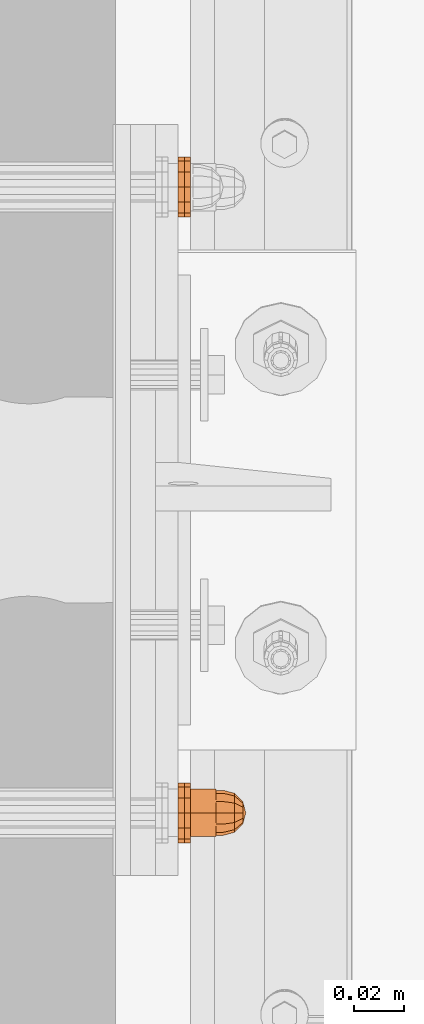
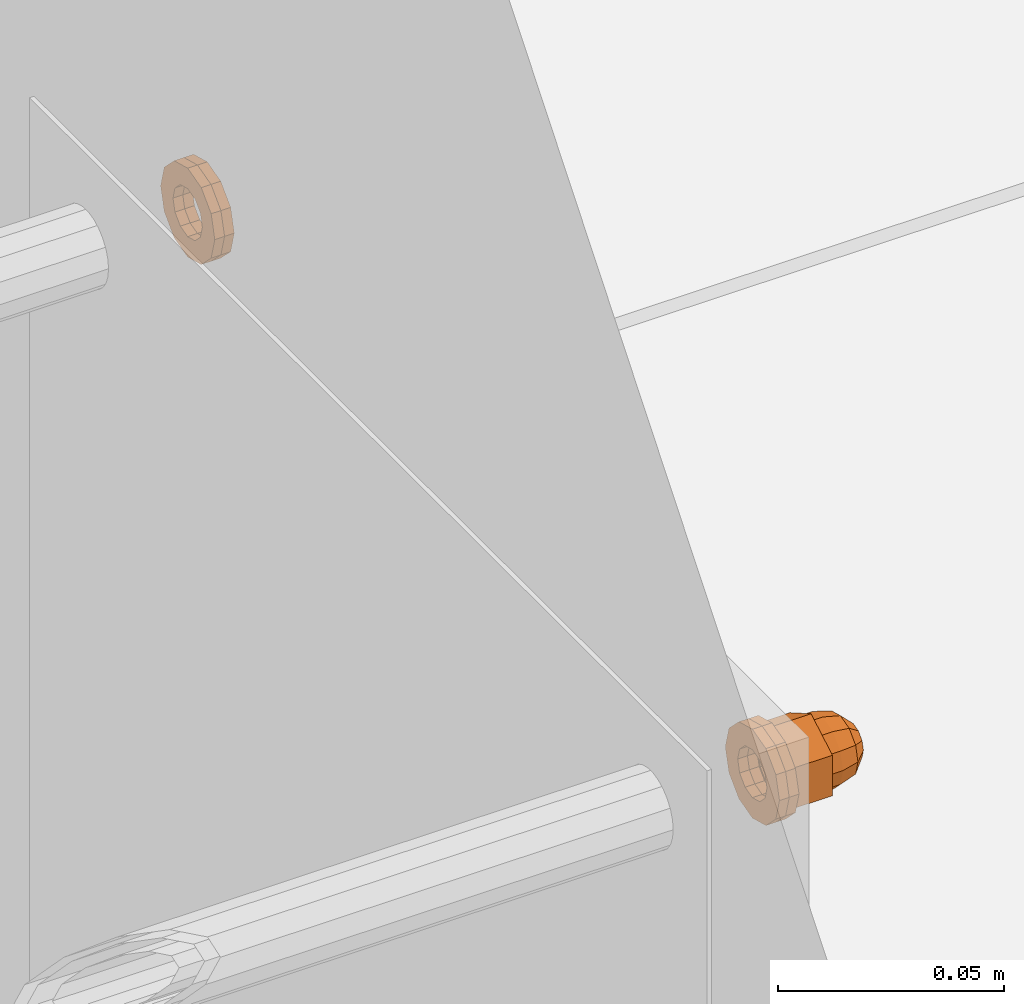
# One storey, part 114 of 162: 5 proxies.
"""IFC2X3 building model written with IfcOpenShell, lengths in millimetres."""

from ifc_helpers import new_model, entity, si_unit, converted_unit, origin_with_axes, place, context, project, spatial, faceted_brep, material, element, save


model = new_model("IFC2X3")

# Units and contexts
model_context = context("Model", 3, precision=1e-09, world=origin_with_axes())
ifc_project = project(units=[si_unit("LENGTHUNIT", "METRE", prefix="MILLI"), si_unit("AREAUNIT", "SQUARE_METRE"), si_unit("VOLUMEUNIT", "CUBIC_METRE"), converted_unit("PLANEANGLEUNIT", "DEGREE", entity("IfcPlaneAngleMeasure", 0.01745329), si_unit("PLANEANGLEUNIT", "RADIAN"), dimensions=[0, 0, 0, 0, 0, 0, 0])], contexts=[model_context])

# Site, building, storey
site_placement = place(None, origin_with_axes())
site = spatial("IfcSite", under=ifc_project, at=site_placement, Name="Hermannstra?e 1a, 60318 Frankfurt", CompositionType="ELEMENT")
building_placement = place(site_placement, origin_with_axes())
building = spatial("IfcBuilding", under=site, at=building_placement, Name="Struktur 1", CompositionType="ELEMENT")
storey_placement = place(building_placement, origin_with_axes())
storey = spatial("IfcBuildingStorey", under=building, at=storey_placement, Name="Default Storey", CompositionType="ELEMENT", Elevation=0.0)

# Proxies
ifc_material_1 = material(Name="A4")
proxy_1_placement = place(None, origin_with_axes())
element("IfcBuildingElementProxy", 1, at=proxy_1_placement, inside=storey, material=ifc_material_1, ObjectType="-", context=model_context, shape_type="Brep", body=[
    faceted_brep([(2553.308657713, 1920.216361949, 7899.0), (2550.808657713, 1920.216361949, 7899.0), (2550.808657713, 1924.608666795, 7894.607695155), (2553.308657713, 1924.608666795, 7894.607695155), (2553.308657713, 1930.608666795, 7893.0), (2553.308657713, 1936.608666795, 7894.607695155), (2553.308657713, 1941.00097164, 7899.0), (2553.308657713, 1942.608666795, 7905.0), (2553.308657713, 1941.00097164, 7911.0), (2553.308657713, 1936.608666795, 7915.392304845), (2553.308657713, 1930.608666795, 7917.0), (2553.308657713, 1924.608666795, 7915.392304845), (2553.308657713, 1920.216361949, 7911.0), (2553.308657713, 1918.608666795, 7905.0), (2553.308657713, 1933.858666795, 7899.370834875), (2553.308657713, 1930.608666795, 7898.5), (2553.308657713, 1927.358666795, 7899.370834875), (2553.308657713, 1924.97950167, 7901.75), (2553.308657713, 1924.108666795, 7905.0), (2553.308657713, 1924.97950167, 7908.25), (2553.308657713, 1927.358666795, 7910.629165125), (2553.308657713, 1930.608666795, 7911.5), (2553.308657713, 1933.858666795, 7910.629165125), (2553.308657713, 1936.237831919, 7908.25), (2553.308657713, 1937.108666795, 7905.0), (2553.308657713, 1936.237831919, 7901.75), (2550.808657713, 1918.608666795, 7905.0), (2550.808657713, 1920.216361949, 7911.0), (2550.808657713, 1924.608666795, 7915.392304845), (2550.808657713, 1930.608666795, 7917.0), (2550.808657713, 1936.608666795, 7915.392304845), (2550.808657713, 1941.00097164, 7911.0), (2550.808657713, 1942.608666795, 7905.0), (2550.808657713, 1941.00097164, 7899.0), (2550.808657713, 1936.608666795, 7894.607695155), (2550.808657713, 1930.608666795, 7893.0), (2550.808657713, 1924.108666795, 7905.0), (2550.808657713, 1924.97950167, 7901.75), (2550.808657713, 1927.358666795, 7899.370834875), (2550.808657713, 1930.608666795, 7898.5), (2550.808657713, 1933.858666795, 7899.370834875), (2550.808657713, 1936.237831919, 7901.75), (2550.808657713, 1937.108666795, 7905.0), (2550.808657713, 1936.237831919, 7908.25), (2550.808657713, 1933.858666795, 7910.629165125), (2550.808657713, 1930.608666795, 7911.5), (2550.808657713, 1927.358666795, 7910.629165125), (2550.808657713, 1924.97950167, 7908.25)], [[[0, 1, 2, 3]], [[3, 4, 5, 6, 7, 8, 9, 10, 11, 12, 13, 0], [14, 15, 16, 17, 18, 19, 20, 21, 22, 23, 24, 25]], [[1, 26, 27, 28, 29, 30, 31, 32, 33, 34, 35, 2], [36, 37, 38, 39, 40, 41, 42, 43, 44, 45, 46, 47]], [[37, 17, 16, 38]], [[1, 0, 13, 26]], [[17, 37, 36, 18]], [[38, 16, 15, 39]], [[3, 2, 35, 4]], [[26, 13, 12, 27]], [[18, 36, 47, 19]], [[39, 15, 14, 40]], [[4, 35, 34, 5]], [[27, 12, 11, 28]], [[19, 47, 46, 20]], [[40, 14, 25, 41]], [[5, 34, 33, 6]], [[24, 42, 41, 25]], [[28, 11, 10, 29]], [[20, 46, 45, 21]], [[23, 43, 42, 24]], [[6, 33, 32, 7]], [[44, 22, 21, 45]], [[43, 23, 22, 44]], [[29, 10, 9, 30]], [[7, 32, 31, 8]], [[30, 9, 8, 31]]]),
])
ifc_material_2 = material(Name="Kunststoff")
proxy_2_placement = place(None, origin_with_axes())
element("IfcBuildingElementProxy", 2, at=proxy_2_placement, inside=storey, material=ifc_material_2, ObjectType="-", context=model_context, shape_type="Brep", body=[
    faceted_brep([(2550.808657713, 1941.00097164, 7899.0), (2548.308657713, 1941.00097164, 7899.0), (2548.308657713, 1942.608666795, 7905.0), (2550.808657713, 1942.608666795, 7905.0), (2548.308657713, 1936.608666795, 7894.607695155), (2548.308657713, 1930.608666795, 7893.0), (2548.308657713, 1924.608666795, 7894.607695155), (2548.308657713, 1920.216361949, 7899.0), (2548.308657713, 1918.608666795, 7905.0), (2548.308657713, 1920.216361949, 7911.0), (2548.308657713, 1924.608666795, 7915.392304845), (2548.308657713, 1930.608666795, 7917.0), (2548.308657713, 1936.608666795, 7915.392304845), (2548.308657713, 1941.00097164, 7911.0), (2548.308657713, 1933.858666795, 7899.370834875), (2548.308657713, 1936.237831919, 7901.75), (2548.308657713, 1937.108666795, 7905.0), (2548.308657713, 1936.237831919, 7908.25), (2548.308657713, 1933.858666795, 7910.629165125), (2548.308657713, 1930.608666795, 7911.5), (2548.308657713, 1927.358666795, 7910.629165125), (2548.308657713, 1924.97950167, 7908.25), (2548.308657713, 1924.108666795, 7905.0), (2548.308657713, 1924.97950167, 7901.75), (2548.308657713, 1927.358666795, 7899.370834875), (2548.308657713, 1930.608666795, 7898.5), (2550.808657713, 1937.108666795, 7905.0), (2550.808657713, 1936.237831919, 7901.75), (2550.808657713, 1936.608666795, 7894.607695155), (2550.808657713, 1941.00097164, 7911.0), (2550.808657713, 1936.608666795, 7915.392304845), (2550.808657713, 1930.608666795, 7917.0), (2550.808657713, 1924.608666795, 7915.392304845), (2550.808657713, 1920.216361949, 7911.0), (2550.808657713, 1918.608666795, 7905.0), (2550.808657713, 1920.216361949, 7899.0), (2550.808657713, 1924.608666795, 7894.607695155), (2550.808657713, 1930.608666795, 7893.0), (2550.808657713, 1933.858666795, 7899.370834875), (2550.808657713, 1930.608666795, 7898.5), (2550.808657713, 1927.358666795, 7899.370834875), (2550.808657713, 1924.97950167, 7901.75), (2550.808657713, 1924.108666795, 7905.0), (2550.808657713, 1924.97950167, 7908.25), (2550.808657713, 1927.358666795, 7910.629165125), (2550.808657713, 1930.608666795, 7911.5), (2550.808657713, 1933.858666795, 7910.629165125), (2550.808657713, 1936.237831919, 7908.25)], [[[0, 1, 2, 3]], [[1, 4, 5, 6, 7, 8, 9, 10, 11, 12, 13, 2], [14, 15, 16, 17, 18, 19, 20, 21, 22, 23, 24, 25]], [[26, 16, 15, 27]], [[28, 0, 3, 29, 30, 31, 32, 33, 34, 35, 36, 37], [26, 27, 38, 39, 40, 41, 42, 43, 44, 45, 46, 47]], [[1, 0, 28, 4]], [[16, 26, 47, 17]], [[3, 2, 13, 29]], [[27, 15, 14, 38]], [[4, 28, 37, 5]], [[17, 47, 46, 18]], [[29, 13, 12, 30]], [[38, 14, 25, 39]], [[18, 46, 45, 19]], [[5, 37, 36, 6]], [[39, 25, 24, 40]], [[30, 12, 11, 31]], [[19, 45, 44, 20]], [[6, 36, 35, 7]], [[40, 24, 23, 41]], [[31, 11, 10, 32]], [[20, 44, 43, 21]], [[7, 35, 34, 8]], [[41, 23, 22, 42]], [[32, 10, 9, 33]], [[21, 43, 42, 22]], [[8, 34, 33, 9]]]),
])
proxy_3_placement = place(None, origin_with_axes())
element("IfcBuildingElementProxy", 3, at=proxy_3_placement, inside=storey, material=ifc_material_1, ObjectType="-", context=model_context, shape_type="Brep", body=[
    faceted_brep([(2553.308657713, 1686.608666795, 7905.0), (2563.308657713, 1686.608666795, 7905.0), (2563.308657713, 1685.804819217, 7908.0), (2553.308657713, 1685.804819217, 7908.0), (2563.308657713, 1683.608666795, 7910.196152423), (2553.308657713, 1683.608666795, 7910.196152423), (2553.308657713, 1685.804819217, 7902.0), (2563.308657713, 1685.804819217, 7902.0), (2553.308657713, 1690.088536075, 7899.526794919), (2553.308657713, 1680.608666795, 7894.053589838), (2553.308657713, 1671.128797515, 7899.526794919), (2553.308657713, 1671.128797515, 7910.473205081), (2553.308657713, 1680.608666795, 7915.946410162), (2553.308657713, 1690.088536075, 7910.473205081), (2553.308657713, 1683.608666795, 7899.803847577), (2553.308657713, 1680.608666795, 7911.0), (2553.308657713, 1677.608666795, 7910.196152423), (2553.308657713, 1675.412514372, 7908.0), (2553.308657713, 1674.608666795, 7905.0), (2553.308657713, 1675.412514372, 7902.0), (2553.308657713, 1677.608666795, 7899.803847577), (2553.308657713, 1680.608666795, 7899.0), (2563.308657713, 1680.608666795, 7894.053589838), (2563.308657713, 1690.088536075, 7899.526794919), (2563.308657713, 1690.088536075, 7910.473205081), (2563.308657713, 1680.608666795, 7915.946410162), (2563.308657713, 1671.128797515, 7910.473205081), (2563.308657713, 1671.128797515, 7899.526794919), (2563.308657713, 1683.608666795, 7899.803847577), (2563.308657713, 1680.608666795, 7899.0), (2563.308657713, 1677.608666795, 7899.803847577), (2563.308657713, 1675.412514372, 7902.0), (2563.308657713, 1674.608666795, 7905.0), (2563.308657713, 1675.412514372, 7908.0), (2563.308657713, 1677.608666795, 7910.196152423), (2563.308657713, 1680.608666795, 7911.0)], [[[0, 1, 2, 3]], [[3, 2, 4, 5]], [[1, 0, 6, 7]], [[8, 9, 10, 11, 12, 13], [14, 6, 0, 3, 5, 15, 16, 17, 18, 19, 20, 21]], [[22, 23, 24, 25, 26, 27], [1, 7, 28, 29, 30, 31, 32, 33, 34, 35, 4, 2]], [[7, 6, 14, 28]], [[24, 23, 8, 13]], [[5, 4, 35, 15]], [[13, 12, 25, 24]], [[28, 14, 21, 29]], [[23, 22, 9, 8]], [[15, 35, 34, 16]], [[12, 11, 26, 25]], [[29, 21, 20, 30]], [[22, 27, 10, 9]], [[16, 34, 33, 17]], [[27, 26, 11, 10]], [[30, 20, 19, 31]], [[17, 33, 32, 18]], [[31, 19, 18, 32]]]),
    faceted_brep([(2563.308657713, 1680.608666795, 7896.0), (2566.308657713, 1680.608666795, 7896.0), (2566.308657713, 1676.108666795, 7897.205771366), (2563.308657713, 1676.108666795, 7897.205771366), (2563.308657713, 1685.108666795, 7897.205771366), (2566.308657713, 1685.108666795, 7897.205771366), (2566.308657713, 1688.402895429, 7909.5), (2566.308657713, 1685.108666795, 7912.794228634), (2566.308657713, 1680.608666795, 7914.0), (2566.308657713, 1676.108666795, 7912.794228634), (2566.308657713, 1672.814438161, 7909.5), (2566.308657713, 1671.608666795, 7905.0), (2566.308657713, 1672.814438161, 7900.5), (2566.308657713, 1688.402895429, 7900.5), (2566.308657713, 1689.608666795, 7905.0), (2563.308657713, 1672.814438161, 7909.5), (2563.308657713, 1676.108666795, 7912.794228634), (2563.308657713, 1680.608666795, 7914.0), (2563.308657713, 1685.108666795, 7912.794228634), (2563.308657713, 1688.402895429, 7909.5), (2563.308657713, 1689.608666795, 7905.0), (2563.308657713, 1688.402895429, 7900.5), (2563.308657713, 1672.814438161, 7900.5), (2563.308657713, 1671.608666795, 7905.0)], [[[0, 1, 2, 3]], [[1, 0, 4, 5]], [[6, 7, 8, 9, 10, 11, 12, 2, 1, 5, 13, 14]], [[15, 16, 17, 18, 19, 20, 21, 4, 0, 3, 22, 23]], [[3, 2, 12, 22]], [[5, 4, 21, 13]], [[22, 12, 11, 23]], [[13, 21, 20, 14]], [[7, 18, 17, 8]], [[19, 6, 14, 20]], [[18, 7, 6, 19]], [[23, 11, 10, 15]], [[8, 17, 16, 9]], [[15, 10, 9, 16]]]),
    faceted_brep([(2566.308657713, 1688.402895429, 7900.5), (2570.808657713, 1687.358666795, 7901.102885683), (2570.808657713, 1684.505781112, 7898.25), (2566.308657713, 1685.108666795, 7897.205771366), (2566.308657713, 1672.814438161, 7909.5), (2566.308657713, 1676.108666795, 7912.794228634), (2566.308657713, 1680.608666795, 7914.0), (2566.308657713, 1685.108666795, 7912.794228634), (2566.308657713, 1688.402895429, 7909.5), (2566.308657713, 1689.608666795, 7905.0), (2566.308657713, 1680.608666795, 7896.0), (2566.308657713, 1676.108666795, 7897.205771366), (2566.308657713, 1672.814438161, 7900.5), (2566.308657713, 1671.608666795, 7905.0), (2570.808657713, 1680.608666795, 7897.205771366), (2570.808657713, 1688.402895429, 7905.0), (2574.102886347, 1685.108666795, 7905.0), (2574.102886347, 1684.505781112, 7902.75), (2570.808657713, 1676.711552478, 7898.25), (2574.102886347, 1682.858666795, 7901.102885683), (2570.808657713, 1687.358666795, 7908.897114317), (2574.102886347, 1684.505781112, 7907.25), (2574.102886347, 1680.608666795, 7900.5), (2575.308657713, 1680.608666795, 7905.0), (2570.808657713, 1684.505781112, 7911.75), (2574.102886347, 1682.858666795, 7908.897114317), (2570.808657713, 1680.608666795, 7912.794228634), (2570.808657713, 1673.858666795, 7901.102885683), (2574.102886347, 1678.358666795, 7901.102885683), (2574.102886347, 1680.608666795, 7909.5), (2570.808657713, 1676.711552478, 7911.75), (2574.102886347, 1678.358666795, 7908.897114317), (2570.808657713, 1672.814438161, 7905.0), (2574.102886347, 1676.711552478, 7902.75), (2570.808657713, 1673.858666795, 7908.897114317), (2574.102886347, 1676.711552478, 7907.25), (2574.102886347, 1676.108666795, 7905.0)], [[[0, 1, 2, 3]], [[4, 5, 6, 7, 8, 9, 0, 3, 10, 11, 12, 13]], [[3, 2, 14, 10]], [[15, 16, 17, 1]], [[1, 0, 9, 15]], [[10, 14, 18, 11]], [[1, 17, 19, 2]], [[16, 15, 20, 21]], [[2, 19, 22, 14]], [[23, 17, 16]], [[24, 25, 21, 20]], [[23, 16, 21]], [[24, 7, 6, 26]], [[20, 8, 7, 24]], [[15, 9, 8, 20]], [[11, 18, 27, 12]], [[14, 22, 28, 18]], [[23, 19, 17]], [[26, 29, 25, 24]], [[23, 21, 25]], [[23, 22, 19]], [[26, 6, 5, 30]], [[29, 26, 30, 31]], [[23, 25, 29]], [[12, 27, 32, 13]], [[18, 28, 33, 27]], [[23, 28, 22]], [[23, 29, 31]], [[23, 33, 28]], [[30, 5, 4, 34]], [[31, 30, 34, 35]], [[23, 31, 35]], [[13, 32, 34, 4]], [[27, 33, 36, 32]], [[23, 36, 33]], [[23, 35, 36]], [[35, 34, 32, 36]]]),
])
proxy_4_placement = place(None, origin_with_axes())
element("IfcBuildingElementProxy", 4, at=proxy_4_placement, inside=storey, material=ifc_material_1, ObjectType="-", context=model_context, shape_type="Brep", body=[
    faceted_brep([(2553.308657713, 1670.216361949, 7899.0), (2550.808657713, 1670.216361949, 7899.0), (2550.808657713, 1674.608666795, 7894.607695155), (2553.308657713, 1674.608666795, 7894.607695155), (2553.308657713, 1680.608666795, 7893.0), (2553.308657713, 1686.608666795, 7894.607695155), (2553.308657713, 1691.00097164, 7899.0), (2553.308657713, 1692.608666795, 7905.0), (2553.308657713, 1691.00097164, 7911.0), (2553.308657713, 1686.608666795, 7915.392304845), (2553.308657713, 1680.608666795, 7917.0), (2553.308657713, 1674.608666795, 7915.392304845), (2553.308657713, 1670.216361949, 7911.0), (2553.308657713, 1668.608666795, 7905.0), (2553.308657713, 1683.858666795, 7899.370834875), (2553.308657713, 1680.608666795, 7898.5), (2553.308657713, 1677.358666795, 7899.370834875), (2553.308657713, 1674.97950167, 7901.75), (2553.308657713, 1674.108666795, 7905.0), (2553.308657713, 1674.97950167, 7908.25), (2553.308657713, 1677.358666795, 7910.629165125), (2553.308657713, 1680.608666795, 7911.5), (2553.308657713, 1683.858666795, 7910.629165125), (2553.308657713, 1686.237831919, 7908.25), (2553.308657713, 1687.108666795, 7905.0), (2553.308657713, 1686.237831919, 7901.75), (2550.808657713, 1668.608666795, 7905.0), (2550.808657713, 1670.216361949, 7911.0), (2550.808657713, 1674.608666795, 7915.392304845), (2550.808657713, 1680.608666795, 7917.0), (2550.808657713, 1686.608666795, 7915.392304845), (2550.808657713, 1691.00097164, 7911.0), (2550.808657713, 1692.608666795, 7905.0), (2550.808657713, 1691.00097164, 7899.0), (2550.808657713, 1686.608666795, 7894.607695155), (2550.808657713, 1680.608666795, 7893.0), (2550.808657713, 1674.108666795, 7905.0), (2550.808657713, 1674.97950167, 7901.75), (2550.808657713, 1677.358666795, 7899.370834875), (2550.808657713, 1680.608666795, 7898.5), (2550.808657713, 1683.858666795, 7899.370834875), (2550.808657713, 1686.237831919, 7901.75), (2550.808657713, 1687.108666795, 7905.0), (2550.808657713, 1686.237831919, 7908.25), (2550.808657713, 1683.858666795, 7910.629165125), (2550.808657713, 1680.608666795, 7911.5), (2550.808657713, 1677.358666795, 7910.629165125), (2550.808657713, 1674.97950167, 7908.25)], [[[0, 1, 2, 3]], [[3, 4, 5, 6, 7, 8, 9, 10, 11, 12, 13, 0], [14, 15, 16, 17, 18, 19, 20, 21, 22, 23, 24, 25]], [[1, 26, 27, 28, 29, 30, 31, 32, 33, 34, 35, 2], [36, 37, 38, 39, 40, 41, 42, 43, 44, 45, 46, 47]], [[37, 17, 16, 38]], [[1, 0, 13, 26]], [[17, 37, 36, 18]], [[38, 16, 15, 39]], [[3, 2, 35, 4]], [[26, 13, 12, 27]], [[18, 36, 47, 19]], [[39, 15, 14, 40]], [[4, 35, 34, 5]], [[27, 12, 11, 28]], [[19, 47, 46, 20]], [[40, 14, 25, 41]], [[5, 34, 33, 6]], [[24, 42, 41, 25]], [[28, 11, 10, 29]], [[20, 46, 45, 21]], [[23, 43, 42, 24]], [[6, 33, 32, 7]], [[44, 22, 21, 45]], [[43, 23, 22, 44]], [[29, 10, 9, 30]], [[7, 32, 31, 8]], [[30, 9, 8, 31]]]),
])
proxy_5_placement = place(None, origin_with_axes())
element("IfcBuildingElementProxy", 5, at=proxy_5_placement, inside=storey, material=ifc_material_2, ObjectType="-", context=model_context, shape_type="Brep", body=[
    faceted_brep([(2550.808657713, 1691.00097164, 7899.0), (2548.308657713, 1691.00097164, 7899.0), (2548.308657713, 1692.608666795, 7905.0), (2550.808657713, 1692.608666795, 7905.0), (2548.308657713, 1686.608666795, 7894.607695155), (2548.308657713, 1680.608666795, 7893.0), (2548.308657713, 1674.608666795, 7894.607695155), (2548.308657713, 1670.216361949, 7899.0), (2548.308657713, 1668.608666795, 7905.0), (2548.308657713, 1670.216361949, 7911.0), (2548.308657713, 1674.608666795, 7915.392304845), (2548.308657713, 1680.608666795, 7917.0), (2548.308657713, 1686.608666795, 7915.392304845), (2548.308657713, 1691.00097164, 7911.0), (2548.308657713, 1683.858666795, 7899.370834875), (2548.308657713, 1686.237831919, 7901.75), (2548.308657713, 1687.108666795, 7905.0), (2548.308657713, 1686.237831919, 7908.25), (2548.308657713, 1683.858666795, 7910.629165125), (2548.308657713, 1680.608666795, 7911.5), (2548.308657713, 1677.358666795, 7910.629165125), (2548.308657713, 1674.97950167, 7908.25), (2548.308657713, 1674.108666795, 7905.0), (2548.308657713, 1674.97950167, 7901.75), (2548.308657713, 1677.358666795, 7899.370834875), (2548.308657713, 1680.608666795, 7898.5), (2550.808657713, 1687.108666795, 7905.0), (2550.808657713, 1686.237831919, 7901.75), (2550.808657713, 1686.608666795, 7894.607695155), (2550.808657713, 1691.00097164, 7911.0), (2550.808657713, 1686.608666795, 7915.392304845), (2550.808657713, 1680.608666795, 7917.0), (2550.808657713, 1674.608666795, 7915.392304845), (2550.808657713, 1670.216361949, 7911.0), (2550.808657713, 1668.608666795, 7905.0), (2550.808657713, 1670.216361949, 7899.0), (2550.808657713, 1674.608666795, 7894.607695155), (2550.808657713, 1680.608666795, 7893.0), (2550.808657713, 1683.858666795, 7899.370834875), (2550.808657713, 1680.608666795, 7898.5), (2550.808657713, 1677.358666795, 7899.370834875), (2550.808657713, 1674.97950167, 7901.75), (2550.808657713, 1674.108666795, 7905.0), (2550.808657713, 1674.97950167, 7908.25), (2550.808657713, 1677.358666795, 7910.629165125), (2550.808657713, 1680.608666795, 7911.5), (2550.808657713, 1683.858666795, 7910.629165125), (2550.808657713, 1686.237831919, 7908.25)], [[[0, 1, 2, 3]], [[1, 4, 5, 6, 7, 8, 9, 10, 11, 12, 13, 2], [14, 15, 16, 17, 18, 19, 20, 21, 22, 23, 24, 25]], [[26, 16, 15, 27]], [[28, 0, 3, 29, 30, 31, 32, 33, 34, 35, 36, 37], [26, 27, 38, 39, 40, 41, 42, 43, 44, 45, 46, 47]], [[1, 0, 28, 4]], [[16, 26, 47, 17]], [[3, 2, 13, 29]], [[27, 15, 14, 38]], [[4, 28, 37, 5]], [[17, 47, 46, 18]], [[29, 13, 12, 30]], [[38, 14, 25, 39]], [[18, 46, 45, 19]], [[5, 37, 36, 6]], [[39, 25, 24, 40]], [[30, 12, 11, 31]], [[19, 45, 44, 20]], [[6, 36, 35, 7]], [[40, 24, 23, 41]], [[31, 11, 10, 32]], [[20, 44, 43, 21]], [[7, 35, 34, 8]], [[41, 23, 22, 42]], [[32, 10, 9, 33]], [[21, 43, 42, 22]], [[8, 34, 33, 9]]]),
])

save(model, "model.ifc")
